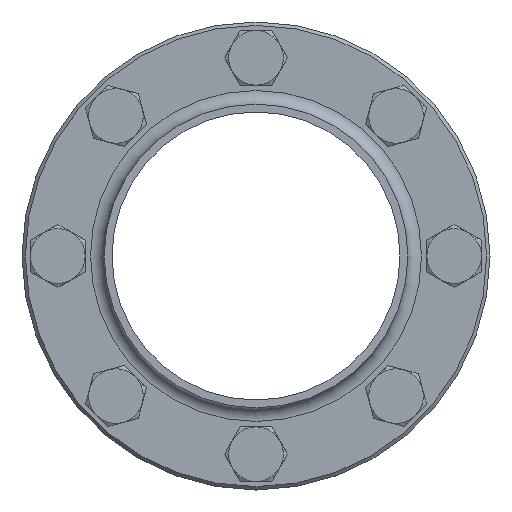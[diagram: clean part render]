
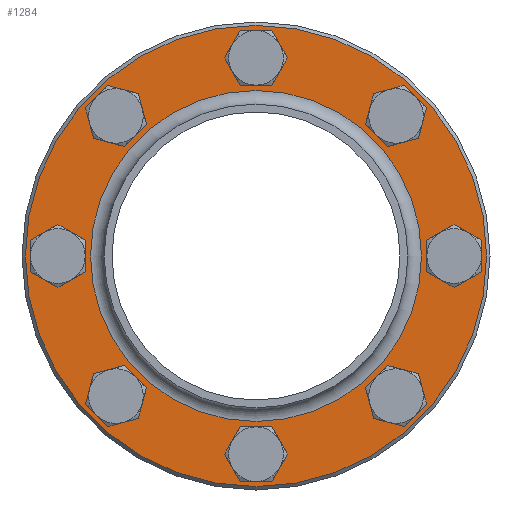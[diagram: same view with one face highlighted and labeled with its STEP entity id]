
A CAD part, front view. The second image highlights one B-rep face of the part: STEP entity #1284.
In plain terms, the highlighted planar face has unit normal (0, -1, 0).
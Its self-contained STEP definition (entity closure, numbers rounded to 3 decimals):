
#184=PLANE('',#1407);
#251=FACE_BOUND('',#457,.T.);
#252=FACE_BOUND('',#458,.T.);
#253=FACE_BOUND('',#459,.T.);
#254=FACE_BOUND('',#460,.T.);
#255=FACE_BOUND('',#461,.T.);
#256=FACE_BOUND('',#462,.T.);
#257=FACE_BOUND('',#463,.T.);
#258=FACE_BOUND('',#464,.T.);
#259=FACE_BOUND('',#465,.T.);
#340=FACE_OUTER_BOUND('',#456,.T.);
#456=EDGE_LOOP('',(#968));
#457=EDGE_LOOP('',(#969));
#458=EDGE_LOOP('',(#970));
#459=EDGE_LOOP('',(#971));
#460=EDGE_LOOP('',(#972));
#461=EDGE_LOOP('',(#973));
#462=EDGE_LOOP('',(#974));
#463=EDGE_LOOP('',(#975));
#464=EDGE_LOOP('',(#976));
#465=EDGE_LOOP('',(#977));
#587=CIRCLE('',#1355,5.5);
#589=CIRCLE('',#1358,5.5);
#591=CIRCLE('',#1361,5.5);
#593=CIRCLE('',#1364,5.5);
#595=CIRCLE('',#1367,5.5);
#597=CIRCLE('',#1370,5.5);
#599=CIRCLE('',#1373,5.5);
#601=CIRCLE('',#1376,5.5);
#617=CIRCLE('',#1406,67.5);
#618=CIRCLE('',#1408,48.45);
#675=VERTEX_POINT('',#1970);
#677=VERTEX_POINT('',#1975);
#679=VERTEX_POINT('',#1980);
#681=VERTEX_POINT('',#1985);
#683=VERTEX_POINT('',#1990);
#685=VERTEX_POINT('',#1995);
#687=VERTEX_POINT('',#2000);
#689=VERTEX_POINT('',#2005);
#705=VERTEX_POINT('',#2051);
#706=VERTEX_POINT('',#2054);
#786=EDGE_CURVE('',#675,#675,#587,.T.);
#788=EDGE_CURVE('',#677,#677,#589,.T.);
#790=EDGE_CURVE('',#679,#679,#591,.T.);
#792=EDGE_CURVE('',#681,#681,#593,.T.);
#794=EDGE_CURVE('',#683,#683,#595,.T.);
#796=EDGE_CURVE('',#685,#685,#597,.T.);
#798=EDGE_CURVE('',#687,#687,#599,.T.);
#800=EDGE_CURVE('',#689,#689,#601,.T.);
#816=EDGE_CURVE('',#705,#705,#617,.T.);
#817=EDGE_CURVE('',#706,#706,#618,.T.);
#968=ORIENTED_EDGE('',*,*,#816,.T.);
#969=ORIENTED_EDGE('',*,*,#786,.T.);
#970=ORIENTED_EDGE('',*,*,#788,.T.);
#971=ORIENTED_EDGE('',*,*,#790,.T.);
#972=ORIENTED_EDGE('',*,*,#792,.T.);
#973=ORIENTED_EDGE('',*,*,#794,.T.);
#974=ORIENTED_EDGE('',*,*,#796,.T.);
#975=ORIENTED_EDGE('',*,*,#798,.T.);
#976=ORIENTED_EDGE('',*,*,#800,.T.);
#977=ORIENTED_EDGE('',*,*,#817,.F.);
#1284=ADVANCED_FACE('',(#340,#251,#252,#253,#254,#255,#256,#257,#258,#259),
#184,.T.);
#1355=AXIS2_PLACEMENT_3D('',#1971,#1556,#1557);
#1358=AXIS2_PLACEMENT_3D('',#1976,#1562,#1563);
#1361=AXIS2_PLACEMENT_3D('',#1981,#1568,#1569);
#1364=AXIS2_PLACEMENT_3D('',#1986,#1574,#1575);
#1367=AXIS2_PLACEMENT_3D('',#1991,#1580,#1581);
#1370=AXIS2_PLACEMENT_3D('',#1996,#1586,#1587);
#1373=AXIS2_PLACEMENT_3D('',#2001,#1592,#1593);
#1376=AXIS2_PLACEMENT_3D('',#2006,#1598,#1599);
#1406=AXIS2_PLACEMENT_3D('',#2052,#1658,#1659);
#1407=AXIS2_PLACEMENT_3D('',#2053,#1660,#1661);
#1408=AXIS2_PLACEMENT_3D('',#2055,#1662,#1663);
#1556=DIRECTION('center_axis',(0.,1.,0.));
#1557=DIRECTION('ref_axis',(-0.707,0.,0.707));
#1562=DIRECTION('center_axis',(0.,1.,0.));
#1563=DIRECTION('ref_axis',(0.,0.,1.));
#1568=DIRECTION('center_axis',(0.,1.,0.));
#1569=DIRECTION('ref_axis',(0.707,0.,0.707));
#1574=DIRECTION('center_axis',(0.,1.,0.));
#1575=DIRECTION('ref_axis',(1.,0.,0.));
#1580=DIRECTION('center_axis',(0.,1.,0.));
#1581=DIRECTION('ref_axis',(0.707,0.,-0.707));
#1586=DIRECTION('center_axis',(0.,1.,0.));
#1587=DIRECTION('ref_axis',(0.,0.,-1.));
#1592=DIRECTION('center_axis',(0.,1.,0.));
#1593=DIRECTION('ref_axis',(-0.707,0.,-0.707));
#1598=DIRECTION('center_axis',(0.,1.,0.));
#1599=DIRECTION('ref_axis',(-1.,0.,0.));
#1658=DIRECTION('center_axis',(0.,-1.,0.));
#1659=DIRECTION('ref_axis',(1.,0.,0.));
#1660=DIRECTION('center_axis',(0.,-1.,0.));
#1661=DIRECTION('ref_axis',(0.,0.,-1.));
#1662=DIRECTION('center_axis',(0.,-1.,0.));
#1663=DIRECTION('ref_axis',(1.,0.,0.));
#1970=CARTESIAN_POINT('',(-37.123,46.,-44.901));
#1971=CARTESIAN_POINT('Origin',(-41.012,46.,-41.012));
#1975=CARTESIAN_POINT('',(-58.,46.,-5.5));
#1976=CARTESIAN_POINT('Origin',(-58.,46.,0.));
#1980=CARTESIAN_POINT('',(-44.901,46.,37.123));
#1981=CARTESIAN_POINT('Origin',(-41.012,46.,41.012));
#1985=CARTESIAN_POINT('',(-5.5,46.,58.));
#1986=CARTESIAN_POINT('Origin',(0.,46.,58.));
#1990=CARTESIAN_POINT('',(37.123,46.,44.901));
#1991=CARTESIAN_POINT('Origin',(41.012,46.,41.012));
#1995=CARTESIAN_POINT('',(58.,46.,5.5));
#1996=CARTESIAN_POINT('Origin',(58.,46.,0.));
#2000=CARTESIAN_POINT('',(44.901,46.,-37.123));
#2001=CARTESIAN_POINT('Origin',(41.012,46.,-41.012));
#2005=CARTESIAN_POINT('',(5.5,46.,-58.));
#2006=CARTESIAN_POINT('Origin',(0.,46.,-58.));
#2051=CARTESIAN_POINT('',(67.5,46.,0.));
#2052=CARTESIAN_POINT('Origin',(0.,46.,0.));
#2053=CARTESIAN_POINT('Origin',(57.975,46.,0.));
#2054=CARTESIAN_POINT('',(48.45,46.,0.));
#2055=CARTESIAN_POINT('Origin',(0.,46.,0.));
